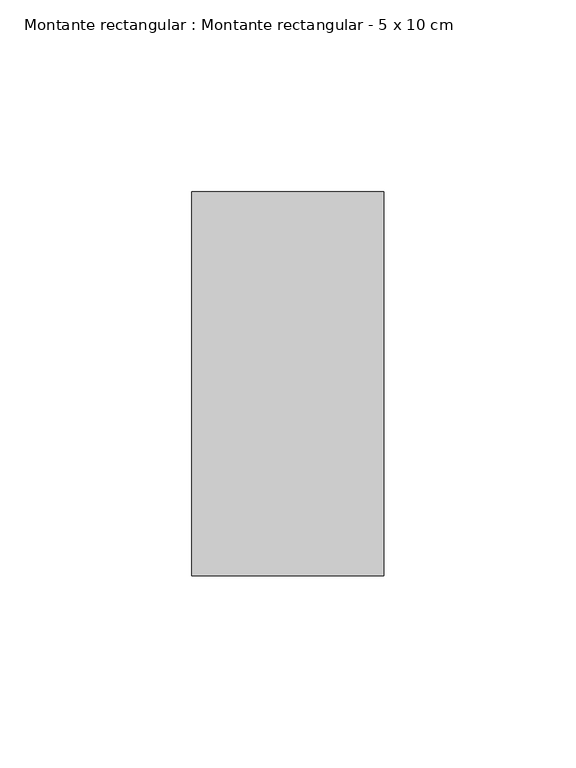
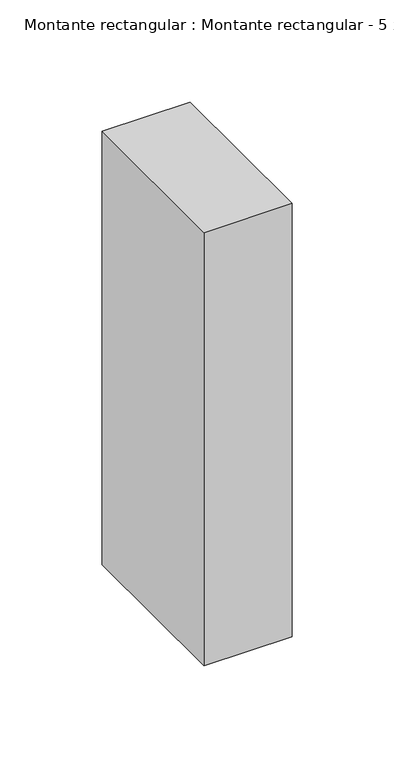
"""IFC4 building model written with IfcOpenShell, lengths in millimetres: member geometry, Montante rectangular : Montante rectangular - 5 x 10 cm."""

from ifc_helpers import new_model, si_unit, frame, origin, place, context, project, spatial, polyline, outline, extrude, source, transform, mapped, element, save


def montante_rectangular_montante_rectangular_5_x_10_cm_03a58d5c(model_context):
    return source(origin(), model_context, "Body", "SweptSolid", [
        extrude(outline(polyline([(0.0, 50.0), (0.0, -50.0), (-50.0, -50.0), (-50.0, 50.0), (0.0, 50.0)])), frame((0.0, 0.0, -259.2854837), z_axis=(0.0, 0.0, 1.0), x_axis=(1.0, 0.0, 0.0)), (0.0, 0.0, 1.0), 259.2854837),
    ])


if __name__ == "__main__":
    model = new_model("IFC4")
    model_context = context("Model", 3, world=origin())
    ifc_project = project(units=[si_unit("LENGTHUNIT", "METRE", prefix="MILLI")], contexts=[model_context])
    site = spatial("IfcSite", under=ifc_project)
    building = spatial("IfcBuilding", under=site)
    placement = place(None, origin())
    montante_rectangular_montante_rectangular_5_x_10_cm_shape = montante_rectangular_montante_rectangular_5_x_10_cm_03a58d5c(model_context)
    element("IfcMember", 1, ObjectType="Montante rectangular : Montante rectangular - 5 x 10 cm", at=placement, inside=building, context=model_context, shape_type="MappedRepresentation", body=[
        mapped(montante_rectangular_montante_rectangular_5_x_10_cm_shape, transform((0.0, 0.0, 0.0), x_axis=(1.0, 0.0, 0.0), y_axis=(0.0, 1.0, 0.0), z_axis=(0.0, 0.0, 1.0))),
    ])
    save(model, "model.ifc")
